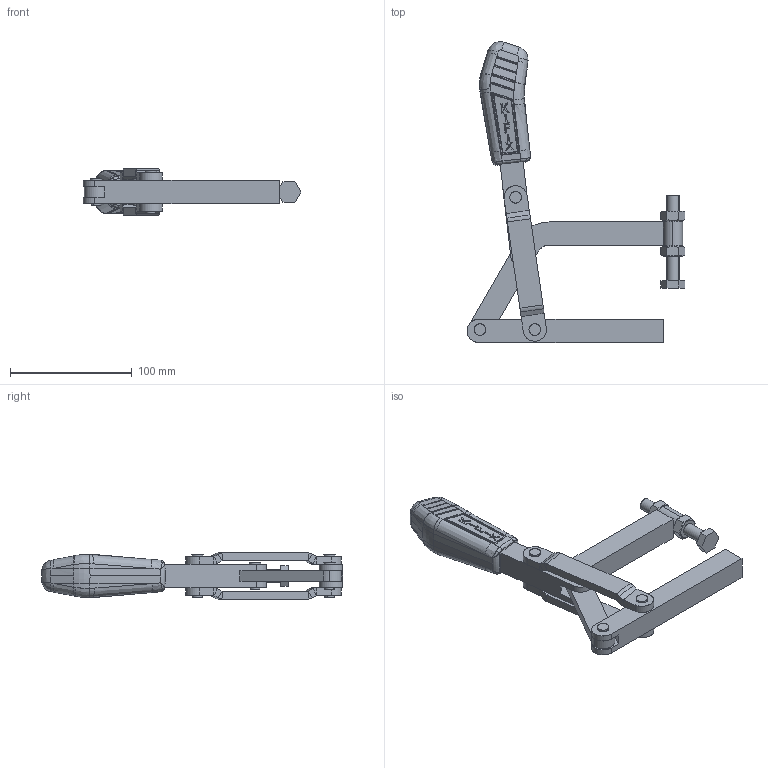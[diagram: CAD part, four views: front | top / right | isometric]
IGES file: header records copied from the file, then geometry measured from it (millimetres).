
Start section: SolidWorks IGES file using analytic representation for surfaces
Global section: file name: C:\Projetos\Grampos\KF-MP\KF-06 MP\KF-06 MP.IGS; native system: SolidWorks 2014; preprocessor: SolidWorks 2014; author: Ricardo; date: 150716.161233; units: millimetre
Bounding box: 178.64 x 246.94 x 37.75 mm (x, y, z)
Surface area: 84686.1 mm2 (no closed solid volume)
Topology: 0 solids, 0 shells, 739 faces, 8624 edges, 8594 vertices
Faces by surface type: bspline 506, revolution 233
